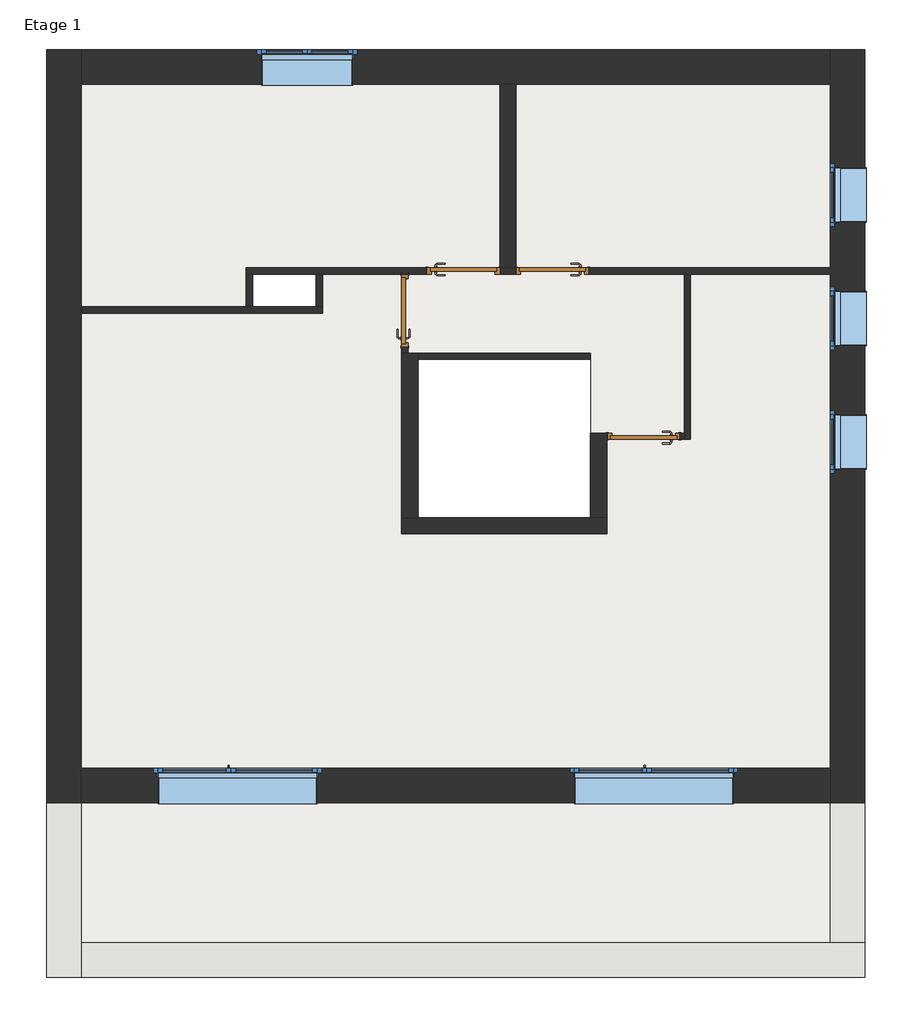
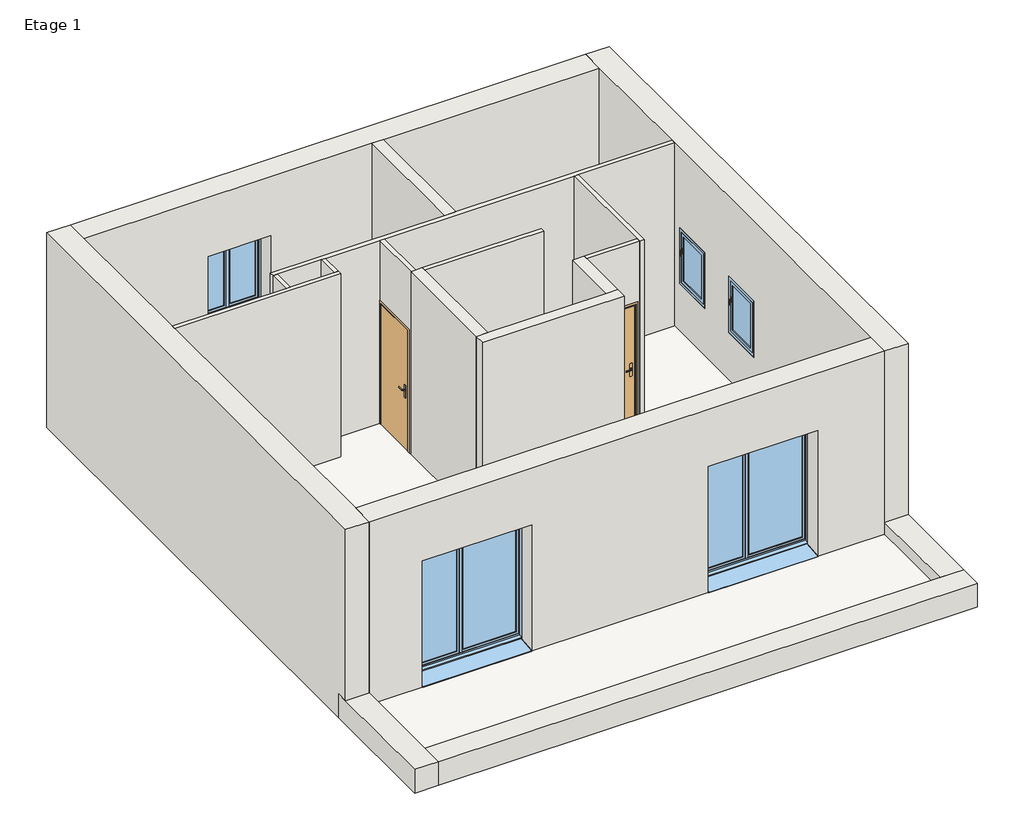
# One storey, incomplete: 19 walls, 6 windows, 4 doors, 1 slab.
"""IFC4 building model written with IfcOpenShell, lengths in millimetres."""

from ifc_helpers import new_model, si_unit, frame, origin, place, context, project, spatial, polyline, outline, extrude, faceted_brep, transform, mapped, element, save
from components import int_simple_pp_0_73m_x_2_04m_0234ae46, int_simple_pp_0_73m_x_2_04m_d65dadfb, window_1_vantail_droit_0_60m_x_0_90m_8d029caf, window_1_30m_x_1_00m_32213f53, window_1_75m_x_2_10m_70a65003

model = new_model("IFC4")

# Units and contexts
model_context = context("Model", 3, world=origin())
ifc_project = project(units=[si_unit("LENGTHUNIT", "METRE", prefix="MILLI")], contexts=[model_context])

# Site, building, storey
site = spatial("IfcSite", under=ifc_project)
building = spatial("IfcBuilding", under=site)
storey = spatial("IfcBuildingStorey", under=building, Name="Etage 1", Elevation=2600.0)

# Doors
placement = place(None, origin())
int_simple_pp_0_73m_x_2_04m_shape = int_simple_pp_0_73m_x_2_04m_0234ae46(model_context)
element("IfcDoor", 1, ObjectType="Int. Simple : PP (0.73m x 2.04m)", at=placement, inside=storey, context=model_context, shape_type="MappedRepresentation", body=[
    mapped(int_simple_pp_0_73m_x_2_04m_shape, transform((3239.2517592, 5219.1422201, 2600.0), x_axis=(-1.0, 0.0, 0.0), y_axis=(0.0, -1.0, 0.0), z_axis=(0.0, 0.0, 1.0))),
])
int_simple_pp_0_73m_x_2_04m_2_shape = int_simple_pp_0_73m_x_2_04m_d65dadfb(model_context)
element("IfcDoor", 2, ObjectType="Int. Simple : PP (0.73m x 2.04m)", at=placement, inside=storey, context=model_context, shape_type="MappedRepresentation", body=[
    mapped(int_simple_pp_0_73m_x_2_04m_2_shape, transform((2329.2517592, 5219.1422201, 2600.0), x_axis=(1.0, 0.0, 0.0), y_axis=(0.0, 1.0, 0.0), z_axis=(0.0, 0.0, 1.0))),
])
element("IfcDoor", 3, ObjectType="Int. Simple : PP (0.73m x 2.04m)", at=placement, inside=storey, context=model_context, shape_type="MappedRepresentation", body=[
    mapped(int_simple_pp_0_73m_x_2_04m_2_shape, transform((1649.2517592, 4815.4892751, 2600.0), x_axis=(0.0, 1.0, 0.0), y_axis=(-1.0, 0.0, 0.0), z_axis=(0.0, 0.0, 1.0))),
])
element("IfcDoor", 4, ObjectType="Int. Simple : PP (0.73m x 2.04m)", at=placement, inside=storey, context=model_context, shape_type="MappedRepresentation", body=[
    mapped(int_simple_pp_0_73m_x_2_04m_2_shape, transform((4243.2121709, 3399.1422201, 2600.0), x_axis=(-1.0, 0.0, 0.0), y_axis=(0.0, -1.0, 0.0), z_axis=(0.0, 0.0, 1.0))),
])

# Slab
element("IfcSlab", 5, ObjectType="Alliance soleil Sol Etage", at=placement, inside=storey, context=model_context, shape_type="SweptSolid", body=[
    extrude(outline(polyline([(-1915.7482408, -2175.8577799), (-1915.7482408, 7464.1422201), (6334.2517592, 7464.1422201), (6334.2517592, -2175.8577799), (-1915.7482408, -2175.8577799)]), holes=[polyline([(1794.2517592, 2504.1422201), (3694.2517592, 2504.1422201), (3694.2517592, 4244.1422201), (1794.2517592, 4244.1422201), (1794.2517592, 2504.1422201)]), polyline([(-25.7482408, 5184.1422201), (-25.7482408, 4824.1422201), (674.2517592, 4824.1422201), (674.2517592, 5184.1422201), (-25.7482408, 5184.1422201)])]), frame((0.0, 0.0, 2400.0), z_axis=(0.0, 0.0, 1.0), x_axis=(1.0, 0.0, 0.0)), (0.0, 0.0, 1.0), 200.0),
])

# Walls
element("IfcWall", 6, ObjectType="Alliance soleil Mur extérieur", at=placement, inside=storey, context=model_context, shape_type="Brep", body=[
    faceted_brep([(6714.2517592, -445.8577799, 2400.0), (6714.2517592, 7654.1422201, 2400.0), (6714.2517592, 7654.1422201, 5700.0), (6714.2517592, -635.8577799, 5700.0), (6714.2517592, -635.8577799, 2800.0), (6714.2517592, -635.8577799, 2600.0), (6714.2517592, -445.8577799, 2600.0), (6714.2517592, 6354.1422201, 4300.0), (6714.2517592, 6354.1422201, 3353.4687294), (6714.2517592, 5754.1422201, 3353.4687294), (6714.2517592, 5754.1422201, 4300.0), (6714.2517592, 4994.1422201, 4300.0), (6714.2517592, 4994.1422201, 3353.4687294), (6714.2517592, 4394.1422201, 3353.4687294), (6714.2517592, 4394.1422201, 4300.0), (6714.2517592, 3634.1422201, 4300.0), (6714.2517592, 3634.1422201, 3353.4687294), (6714.2517592, 3034.1422201, 3353.4687294), (6714.2517592, 3034.1422201, 4300.0), (6334.2517592, -445.8577799, 2400.0), (6334.2517592, -445.8577799, 2600.0), (6334.2517592, -635.8577799, 2600.0), (6334.2517592, -635.8577799, 2800.0), (6334.2517592, -635.8577799, 5700.0), (6334.2517592, -255.8577799, 5700.0), (6334.2517592, 5184.1422201, 5700.0), (6334.2517592, 5254.1422201, 5700.0), (6334.2517592, 7274.1422201, 5700.0), (6334.2517592, 7654.1422201, 5700.0), (6334.2517592, 7654.1422201, 2400.0), (6334.2517592, 7274.1422201, 2400.0), (6334.2517592, 5704.1422201, 3400.0), (6334.2517592, 6404.1422201, 3400.0), (6334.2517592, 6404.1422201, 4350.0), (6334.2517592, 5704.1422201, 4350.0), (6334.2517592, 4344.1422201, 3400.0), (6334.2517592, 5044.1422201, 3400.0), (6334.2517592, 5044.1422201, 4350.0), (6334.2517592, 4344.1422201, 4350.0), (6334.2517592, 2984.1422201, 3400.0), (6334.2517592, 3684.1422201, 3400.0), (6334.2517592, 3684.1422201, 4350.0), (6334.2517592, 2984.1422201, 4350.0), (6414.2517592, 6354.1422201, 3400.0), (6414.2517592, 6354.1422201, 3385.0), (6434.2517592, 6354.1422201, 4300.0), (6434.2517592, 6354.1422201, 3400.0), (6414.2517592, 5754.1422201, 3385.0), (6414.2517592, 5754.1422201, 3400.0), (6434.2517592, 5754.1422201, 3400.0), (6434.2517592, 5754.1422201, 4300.0), (6434.2517592, 6364.1422201, 3400.0), (6384.2517592, 6364.1422201, 3400.0), (6384.2517592, 6404.1422201, 3400.0), (6384.2517592, 5704.1422201, 3400.0), (6384.2517592, 5744.1422201, 3400.0), (6434.2517592, 5744.1422201, 3400.0), (6384.2517592, 6404.1422201, 4350.0), (6384.2517592, 6364.1422201, 4310.0), (6384.2517592, 5744.1422201, 4310.0), (6384.2517592, 5704.1422201, 4350.0), (6434.2517592, 6364.1422201, 4310.0), (6434.2517592, 5744.1422201, 4310.0), (6414.2517592, 4994.1422201, 3400.0), (6414.2517592, 4994.1422201, 3385.0), (6434.2517592, 4994.1422201, 4300.0), (6434.2517592, 4994.1422201, 3400.0), (6414.2517592, 4394.1422201, 3385.0), (6414.2517592, 4394.1422201, 3400.0), (6434.2517592, 4394.1422201, 3400.0), (6434.2517592, 4394.1422201, 4300.0), (6434.2517592, 5004.1422201, 3400.0), (6384.2517592, 5004.1422201, 3400.0), (6384.2517592, 5044.1422201, 3400.0), (6384.2517592, 4344.1422201, 3400.0), (6384.2517592, 4384.1422201, 3400.0), (6434.2517592, 4384.1422201, 3400.0), (6384.2517592, 5044.1422201, 4350.0), (6384.2517592, 5004.1422201, 4310.0), (6384.2517592, 4384.1422201, 4310.0), (6384.2517592, 4344.1422201, 4350.0), (6434.2517592, 5004.1422201, 4310.0), (6434.2517592, 4384.1422201, 4310.0), (6414.2517592, 3634.1422201, 3400.0), (6414.2517592, 3634.1422201, 3385.0), (6434.2517592, 3634.1422201, 4300.0), (6434.2517592, 3634.1422201, 3400.0), (6414.2517592, 3034.1422201, 3385.0), (6414.2517592, 3034.1422201, 3400.0), (6434.2517592, 3034.1422201, 3400.0), (6434.2517592, 3034.1422201, 4300.0), (6434.2517592, 3644.1422201, 3400.0), (6384.2517592, 3644.1422201, 3400.0), (6384.2517592, 3684.1422201, 3400.0), (6384.2517592, 2984.1422201, 3400.0), (6384.2517592, 3024.1422201, 3400.0), (6434.2517592, 3024.1422201, 3400.0), (6384.2517592, 3684.1422201, 4350.0), (6384.2517592, 3644.1422201, 4310.0), (6384.2517592, 3024.1422201, 4310.0), (6384.2517592, 2984.1422201, 4350.0), (6434.2517592, 3644.1422201, 4310.0), (6434.2517592, 3024.1422201, 4310.0)], [[[0, 1, 2, 3, 4, 5, 6], [7, 8, 9, 10], [11, 12, 13, 14], [15, 16, 17, 18]], [[19, 20, 21, 22, 23, 24, 25, 26, 27, 28, 29, 30], [31, 32, 33, 34], [35, 36, 37, 38], [39, 40, 41, 42]], [[1, 0, 19, 30, 29]], [[3, 2, 28, 27, 26, 25, 24, 23]], [[2, 1, 29, 28]], [[0, 6, 20, 19]], [[5, 21, 20, 6]], [[43, 44, 8, 7, 45, 46]], [[47, 48, 49, 50, 10, 9]], [[44, 47, 9, 8]], [[44, 43, 48, 47]], [[7, 10, 50, 45]], [[48, 43, 46, 51, 52, 53, 32, 31, 54, 55, 56, 49]], [[32, 53, 57, 33]], [[53, 52, 58, 59, 55, 54, 60, 57]], [[52, 51, 61, 58]], [[51, 46, 45, 50, 49, 56, 62, 61]], [[33, 57, 60, 34]], [[59, 58, 61, 62]], [[60, 54, 31, 34]], [[55, 59, 62, 56]], [[63, 64, 12, 11, 65, 66]], [[67, 68, 69, 70, 14, 13]], [[64, 67, 13, 12]], [[64, 63, 68, 67]], [[11, 14, 70, 65]], [[68, 63, 66, 71, 72, 73, 36, 35, 74, 75, 76, 69]], [[36, 73, 77, 37]], [[73, 72, 78, 79, 75, 74, 80, 77]], [[72, 71, 81, 78]], [[71, 66, 65, 70, 69, 76, 82, 81]], [[37, 77, 80, 38]], [[79, 78, 81, 82]], [[80, 74, 35, 38]], [[75, 79, 82, 76]], [[83, 84, 16, 15, 85, 86]], [[87, 88, 89, 90, 18, 17]], [[84, 87, 17, 16]], [[84, 83, 88, 87]], [[15, 18, 90, 85]], [[88, 83, 86, 91, 92, 93, 40, 39, 94, 95, 96, 89]], [[40, 93, 97, 41]], [[93, 92, 98, 99, 95, 94, 100, 97]], [[92, 91, 101, 98]], [[91, 86, 85, 90, 89, 96, 102, 101]], [[41, 97, 100, 42]], [[99, 98, 101, 102]], [[100, 94, 39, 42]], [[95, 99, 102, 96]], [[3, 23, 22, 21, 5, 4]]]),
])
element("IfcWall", 7, ObjectType="Alliance soleil Mur extérieur", at=placement, inside=storey, context=model_context, shape_type="Brep", body=[
    faceted_brep([(6334.2517592, 7654.1422201, 2400.0), (-1915.7482408, 7654.1422201, 2400.0), (-1915.7482408, 7654.1422201, 5700.0), (6334.2517592, 7654.1422201, 5700.0), (24.2517592, 7654.1422201, 3400.0), (1124.2517592, 7654.1422201, 3400.0), (1124.2517592, 7654.1422201, 4750.0), (24.2517592, 7654.1422201, 4750.0), (6334.2517592, 7274.1422201, 2400.0), (6334.2517592, 7274.1422201, 5700.0), (2874.2517592, 7274.1422201, 5700.0), (2694.2517592, 7274.1422201, 5700.0), (-1915.7482408, 7274.1422201, 5700.0), (-1915.7482408, 7274.1422201, 2400.0), (74.2517592, 7274.1422201, 3353.4687294), (74.2517592, 7274.1422201, 4700.0), (1074.2517592, 7274.1422201, 4700.0), (1074.2517592, 7274.1422201, 3353.4687294), (74.2517592, 7574.1422201, 3400.0), (74.2517592, 7554.1422201, 3400.0), (74.2517592, 7554.1422201, 4700.0), (74.2517592, 7574.1422201, 3385.0), (1074.2517592, 7574.1422201, 3385.0), (1074.2517592, 7554.1422201, 4700.0), (1074.2517592, 7554.1422201, 3400.0), (1074.2517592, 7574.1422201, 3400.0), (1084.2517592, 7554.1422201, 3400.0), (1084.2517592, 7604.1422201, 3400.0), (1124.2517592, 7604.1422201, 3400.0), (24.2517592, 7604.1422201, 3400.0), (64.2517592, 7604.1422201, 3400.0), (64.2517592, 7554.1422201, 3400.0), (24.2517592, 7604.1422201, 4750.0), (1124.2517592, 7604.1422201, 4750.0), (1084.2517592, 7604.1422201, 4710.0), (64.2517592, 7604.1422201, 4710.0), (64.2517592, 7554.1422201, 4710.0), (1084.2517592, 7554.1422201, 4710.0)], [[[0, 1, 2, 3], [4, 5, 6, 7]], [[8, 9, 10, 11, 12, 13], [14, 15, 16, 17]], [[1, 0, 8, 13]], [[3, 2, 12, 11, 10, 9]], [[0, 3, 9, 8]], [[2, 1, 13, 12]], [[18, 19, 20, 15, 14, 21]], [[22, 17, 16, 23, 24, 25]], [[21, 14, 17, 22]], [[21, 22, 25, 18]], [[15, 20, 23, 16]], [[25, 24, 26, 27, 28, 5, 4, 29, 30, 31, 19, 18]], [[4, 7, 32, 29]], [[29, 32, 33, 28, 27, 34, 35, 30]], [[30, 35, 36, 31]], [[31, 36, 37, 26, 24, 23, 20, 19]], [[7, 6, 33, 32]], [[34, 37, 36, 35]], [[33, 6, 5, 28]], [[27, 26, 37, 34]]]),
])
element("IfcWall", 8, ObjectType="Alliance soleil Mur refend", at=placement, inside=storey, context=model_context, shape_type="Brep", body=[
    faceted_brep([(3874.2517592, 2504.1422201, 2600.0), (3694.2517592, 2504.1422201, 2600.0), (1794.2517592, 2504.1422201, 2600.0), (1614.2517592, 2504.1422201, 2600.0), (1614.2517592, 2504.1422201, 5700.0), (1794.2517592, 2504.1422201, 5700.0), (3694.2517592, 2504.1422201, 5700.0), (3874.2517592, 2504.1422201, 5700.0), (3874.2517592, 2324.1422201, 2600.0), (3874.2517592, 2324.1422201, 5700.0), (1614.2517592, 2324.1422201, 5700.0), (1614.2517592, 2324.1422201, 2600.0)], [[[0, 1, 2, 3, 4, 5, 6, 7]], [[8, 9, 10, 11]], [[3, 2, 1, 0, 8, 11]], [[7, 6, 5, 4, 10, 9]], [[4, 3, 11, 10]], [[0, 7, 9, 8]]]),
])
element("IfcWall", 9, ObjectType="Alliance soleil Mur refend", at=placement, inside=storey, context=model_context, shape_type="Brep", body=[
    faceted_brep([(1794.2517592, 2504.1422201, 2600.0), (1794.2517592, 4244.1422201, 2600.0), (1794.2517592, 4314.1422201, 2600.0), (1794.2517592, 4314.1422201, 5700.0), (1794.2517592, 4244.1422201, 5700.0), (1794.2517592, 2504.1422201, 5700.0), (1614.2517592, 2504.1422201, 2600.0), (1614.2517592, 2504.1422201, 5700.0), (1614.2517592, 4314.1422201, 5700.0), (1614.2517592, 4314.1422201, 2600.0), (1684.2517592, 4314.1422201, 2600.0), (1684.2517592, 4314.1422201, 5700.0)], [[[0, 1, 2, 3, 4, 5]], [[6, 7, 8, 9]], [[2, 1, 0, 6, 9, 10]], [[5, 4, 3, 11, 8, 7]], [[0, 5, 7, 6]], [[3, 2, 10, 9, 8, 11]]]),
])
element("IfcWall", 10, ObjectType="Alliance soleil Mur refend", at=placement, inside=storey, context=model_context, shape_type="Brep", body=[
    faceted_brep([(3874.2517592, 2504.1422201, 2600.0), (3874.2517592, 3364.1422201, 2600.0), (3874.2517592, 3434.1422201, 2600.0), (3874.2517592, 3434.1422201, 5700.0), (3874.2517592, 3364.1422201, 5700.0), (3874.2517592, 2504.1422201, 5700.0), (3694.2517592, 2504.1422201, 2600.0), (3694.2517592, 2504.1422201, 5700.0), (3694.2517592, 3434.1422201, 5700.0), (3694.2517592, 3434.1422201, 2600.0)], [[[0, 1, 2, 3, 4, 5]], [[6, 7, 8, 9]], [[2, 1, 0, 6, 9]], [[5, 4, 3, 8, 7]], [[0, 5, 7, 6]], [[3, 2, 9, 8]]]),
])
element("IfcWall", 11, ObjectType="Alliance soleil Cloison intérieure", at=placement, inside=storey, context=model_context, shape_type="Brep", body=[
    faceted_brep([(-1915.7482408, 4754.1422201, 2600.0), (744.2517592, 4754.1422201, 2600.0), (744.2517592, 4754.1422201, 5700.0), (-1915.7482408, 4754.1422201, 5700.0), (-1915.7482408, 4824.1422201, 2600.0), (-1915.7482408, 4824.1422201, 5700.0), (-95.7482408, 4824.1422201, 5700.0), (-25.7482408, 4824.1422201, 5700.0), (674.2517592, 4824.1422201, 5700.0), (744.2517592, 4824.1422201, 5700.0), (744.2517592, 4824.1422201, 2600.0), (674.2517592, 4824.1422201, 2600.0), (-25.7482408, 4824.1422201, 2600.0), (-95.7482408, 4824.1422201, 2600.0)], [[[0, 1, 2, 3]], [[4, 5, 6, 7, 8, 9, 10, 11, 12, 13]], [[1, 0, 4, 13, 12, 11, 10]], [[3, 2, 9, 8, 7, 6, 5]], [[0, 3, 5, 4]], [[2, 1, 10, 9]]]),
])
element("IfcWall", 12, ObjectType="Alliance soleil Cloison intérieure", at=placement, inside=storey, context=model_context, shape_type="Brep", body=[
    faceted_brep([(-95.7482408, 5254.1422201, 5700.0), (2694.2517592, 5254.1422201, 5700.0), (2874.2517592, 5254.1422201, 5700.0), (6334.2517592, 5254.1422201, 5700.0), (6334.2517592, 5254.1422201, 2600.0), (3674.2517592, 5254.1422201, 2600.0), (3674.2517592, 5254.1422201, 4675.0), (2874.2517592, 5254.1422201, 4675.0), (2874.2517592, 5254.1422201, 2600.0), (2694.2517592, 5254.1422201, 2600.0), (2694.2517592, 5254.1422201, 4675.0), (1894.2517592, 5254.1422201, 4675.0), (1894.2517592, 5254.1422201, 2600.0), (-95.7482408, 5254.1422201, 2600.0), (6334.2517592, 5184.1422201, 5700.0), (4794.2517592, 5184.1422201, 5700.0), (4724.2517592, 5184.1422201, 5700.0), (1684.2517592, 5184.1422201, 5700.0), (1614.2517592, 5184.1422201, 5700.0), (744.2517592, 5184.1422201, 5700.0), (674.2517592, 5184.1422201, 5700.0), (-25.7482408, 5184.1422201, 5700.0), (-95.7482408, 5184.1422201, 5700.0), (-95.7482408, 5184.1422201, 2600.0), (-25.7482408, 5184.1422201, 2600.0), (674.2517592, 5184.1422201, 2600.0), (744.2517592, 5184.1422201, 2600.0), (1614.2517592, 5184.1422201, 2600.0), (1684.2517592, 5184.1422201, 2600.0), (1894.2517592, 5184.1422201, 2600.0), (1894.2517592, 5184.1422201, 4675.0), (2694.2517592, 5184.1422201, 4675.0), (2694.2517592, 5184.1422201, 2600.0), (2874.2517592, 5184.1422201, 2600.0), (2874.2517592, 5184.1422201, 4675.0), (3674.2517592, 5184.1422201, 4675.0), (3674.2517592, 5184.1422201, 2600.0), (4724.2517592, 5184.1422201, 2600.0), (4794.2517592, 5184.1422201, 2600.0), (6334.2517592, 5184.1422201, 2600.0)], [[[0, 1, 2, 3, 4, 5, 6, 7, 8, 9, 10, 11, 12, 13]], [[14, 15, 16, 17, 18, 19, 20, 21, 22, 23, 24, 25, 26, 27, 28, 29, 30, 31, 32, 33, 34, 35, 36, 37, 38, 39]], [[23, 13, 12, 29, 28, 27, 26, 25, 24]], [[8, 33, 32, 9]], [[4, 39, 38, 37, 36, 5]], [[3, 2, 1, 0, 22, 21, 20, 19, 18, 17, 16, 15, 14]], [[4, 3, 14, 39]], [[0, 13, 23, 22]], [[7, 34, 33, 8]], [[34, 7, 6, 35]], [[35, 6, 5, 36]], [[31, 10, 9, 32]], [[10, 31, 30, 11]], [[11, 30, 29, 12]]]),
])
element("IfcWall", 13, ObjectType="Alliance soleil Mur refend", at=placement, inside=storey, context=model_context, shape_type="Brep", body=[
    faceted_brep([(2694.2517592, 7274.1422201, 2600.0), (2694.2517592, 5254.1422201, 2600.0), (2694.2517592, 5254.1422201, 4675.0), (2694.2517592, 5254.1422201, 5700.0), (2694.2517592, 7274.1422201, 5700.0), (2874.2517592, 7274.1422201, 2600.0), (2874.2517592, 7274.1422201, 5700.0), (2874.2517592, 5254.1422201, 5700.0), (2874.2517592, 5254.1422201, 4675.0), (2874.2517592, 5254.1422201, 2600.0)], [[[0, 1, 2, 3, 4]], [[5, 6, 7, 8, 9]], [[1, 0, 5, 9]], [[4, 3, 7, 6]], [[0, 4, 6, 5]], [[3, 2, 1, 9, 8, 7]]]),
])
element("IfcWall", 14, ObjectType="Alliance soleil Cloison intérieure", at=placement, inside=storey, context=model_context, shape_type="SweptSolid", body=[
    extrude(outline(polyline([(744.2517592, 5184.1422201), (744.2517592, 4824.1422201), (674.2517592, 4824.1422201), (674.2517592, 5184.1422201), (744.2517592, 5184.1422201)])), frame((0.0, 0.0, 2600.0), z_axis=(0.0, 0.0, 1.0), x_axis=(1.0, 0.0, 0.0)), (0.0, 0.0, 1.0), 3100.0),
])
element("IfcWall", 15, ObjectType="Alliance soleil Cloison intérieure", at=placement, inside=storey, context=model_context, shape_type="SweptSolid", body=[
    extrude(outline(polyline([(-95.7482408, 4824.1422201), (-95.7482408, 5184.1422201), (-25.7482408, 5184.1422201), (-25.7482408, 4824.1422201), (-95.7482408, 4824.1422201)])), frame((0.0, 0.0, 2600.0), z_axis=(0.0, 0.0, 1.0), x_axis=(1.0, 0.0, 0.0)), (0.0, 0.0, 1.0), 3100.0),
])
element("IfcWall", 16, ObjectType="Alliance soleil Cloison intérieure", at=placement, inside=storey, context=model_context, shape_type="Brep", body=[
    faceted_brep([(4724.2517592, 5184.1422201, 2600.0), (4724.2517592, 3434.1422201, 2600.0), (4724.2517592, 3364.1422201, 2600.0), (4724.2517592, 3364.1422201, 5700.0), (4724.2517592, 3434.1422201, 5700.0), (4724.2517592, 5184.1422201, 5700.0), (4794.2517592, 5184.1422201, 2600.0), (4794.2517592, 5184.1422201, 5700.0), (4794.2517592, 3364.1422201, 5700.0), (4794.2517592, 3364.1422201, 2600.0)], [[[0, 1, 2, 3, 4, 5]], [[6, 7, 8, 9]], [[2, 1, 0, 6, 9]], [[5, 4, 3, 8, 7]], [[0, 5, 7, 6]], [[3, 2, 9, 8]]]),
])
element("IfcWall", 17, ObjectType="Alliance soleil Cloison intérieure", at=placement, inside=storey, context=model_context, shape_type="SweptSolid", body=[
    extrude(outline(polyline([(5700.0, 4724.2517592), (5700.0, 3874.2517592), (2600.0, 3874.2517592), (2600.0, 3878.2121709), (4675.0, 3878.2121709), (4675.0, 4678.2121709), (2600.0, 4678.2121709), (2600.0, 4724.2517592), (5700.0, 4724.2517592)])), frame((0.0, 3364.1422201, 0.0), z_axis=(0.0, 1.0, 0.0), x_axis=(0.0, 0.0, 1.0)), (0.0, 0.0, 1.0), 70.0),
])
element("IfcWall", 18, ObjectType="Alliance soleil Cloison intérieure", at=placement, inside=storey, context=model_context, shape_type="SweptSolid", body=[
    extrude(outline(polyline([(1794.2517592, 4314.1422201), (3694.2517592, 4314.1422201), (3694.2517592, 4244.1422201), (1794.2517592, 4244.1422201), (1794.2517592, 4314.1422201)])), frame((0.0, 0.0, 2600.0), z_axis=(0.0, 0.0, 1.0), x_axis=(1.0, 0.0, 0.0)), (0.0, 0.0, 1.0), 3100.0),
])
element("IfcWall", 19, ObjectType="Alliance soleil Cloison intérieure", at=placement, inside=storey, context=model_context, shape_type="SweptSolid", body=[
    extrude(outline(polyline([(4314.1422201, 5700.0), (5184.1422201, 5700.0), (5184.1422201, 2600.0), (5180.4892751, 2600.0), (5180.4892751, 4675.0), (4380.4892751, 4675.0), (4380.4892751, 2600.0), (4314.1422201, 2600.0), (4314.1422201, 5700.0)])), frame((1614.2517592, 0.0, 0.0), z_axis=(1.0, 0.0, 0.0), x_axis=(0.0, 1.0, 0.0)), (0.0, 0.0, 1.0), 70.0),
])
element("IfcWall", 20, ObjectType="Alliance soleil Mur extérieur", at=placement, inside=storey, context=model_context, shape_type="Brep", body=[
    faceted_brep([(-2295.7482408, -445.8577799, 2800.0), (-2295.7482408, -445.8577799, 2400.0), (-2295.7482408, -2555.8577799, 2400.0), (-2295.7482408, -2555.8577799, 2800.0), (-2295.7482408, -635.8577799, 2800.0), (-1915.7482408, -445.8577799, 2400.0), (-1915.7482408, -445.8577799, 2800.0), (-1915.7482408, -635.8577799, 2800.0), (-1915.7482408, -2175.8577799, 2800.0), (-1915.7482408, -2555.8577799, 2800.0), (-1915.7482408, -2555.8577799, 2400.0), (-1915.7482408, -2175.8577799, 2400.0)], [[[0, 1, 2, 3, 4]], [[5, 6, 7, 8, 9, 10, 11]], [[2, 1, 5, 11, 10]], [[0, 4, 3, 9, 8, 7, 6]], [[3, 2, 10, 9]], [[0, 6, 5, 1]]]),
])
element("IfcWall", 21, ObjectType="Alliance soleil Mur extérieur", at=placement, inside=storey, context=model_context, shape_type="Brep", body=[
    faceted_brep([(-1915.7482408, -2555.8577799, 2400.0), (6714.2517592, -2555.8577799, 2400.0), (6714.2517592, -2555.8577799, 2800.0), (-1915.7482408, -2555.8577799, 2800.0), (-1915.7482408, -2175.8577799, 2400.0), (-1915.7482408, -2175.8577799, 2800.0), (6334.2517592, -2175.8577799, 2800.0), (6714.2517592, -2175.8577799, 2800.0), (6714.2517592, -2175.8577799, 2400.0), (6334.2517592, -2175.8577799, 2400.0)], [[[0, 1, 2, 3]], [[4, 5, 6, 7, 8, 9]], [[1, 0, 4, 9, 8]], [[3, 2, 7, 6, 5]], [[0, 3, 5, 4]], [[2, 1, 8, 7]]]),
])
element("IfcWall", 22, ObjectType="Alliance soleil Mur extérieur", at=placement, inside=storey, context=model_context, shape_type="SweptSolid", body=[
    extrude(outline(polyline([(-2175.8577799, 2400.0), (-2175.8577799, 2800.0), (-635.8577799, 2800.0), (-635.8577799, 2600.0), (-445.8577799, 2600.0), (-445.8577799, 2400.0), (-2175.8577799, 2400.0)])), frame((6334.2517592, 0.0, 0.0), z_axis=(1.0, 0.0, 0.0), x_axis=(0.0, 1.0, 0.0)), (0.0, 0.0, 1.0), 380.0),
])
element("IfcWall", 23, ObjectType="Alliance soleil Mur extérieur", at=placement, inside=storey, context=model_context, shape_type="Brep", body=[
    faceted_brep([(-2295.7482408, 7654.1422201, 2400.0), (-2295.7482408, -445.8577799, 2400.0), (-2295.7482408, -445.8577799, 2800.0), (-2295.7482408, -635.8577799, 2800.0), (-2295.7482408, -635.8577799, 5700.0), (-2295.7482408, 7654.1422201, 5700.0), (-1915.7482408, 7654.1422201, 2400.0), (-1915.7482408, 7654.1422201, 5700.0), (-1915.7482408, 7274.1422201, 5700.0), (-1915.7482408, 4824.1422201, 5700.0), (-1915.7482408, 4754.1422201, 5700.0), (-1915.7482408, -255.8577799, 5700.0), (-1915.7482408, -635.8577799, 5700.0), (-1915.7482408, -635.8577799, 2800.0), (-1915.7482408, -445.8577799, 2800.0), (-1915.7482408, -445.8577799, 2400.0), (-1915.7482408, 7274.1422201, 2400.0)], [[[0, 1, 2, 3, 4, 5]], [[6, 7, 8, 9, 10, 11, 12, 13, 14, 15, 16]], [[1, 0, 6, 16, 15]], [[5, 4, 12, 11, 10, 9, 8, 7]], [[0, 5, 7, 6]], [[1, 15, 14, 2]], [[13, 3, 2, 14]], [[4, 3, 13, 12]]]),
])
element("IfcWall", 24, ObjectType="Alliance soleil Mur extérieur", at=placement, inside=storey, context=model_context, shape_type="Brep", body=[
    faceted_brep([(-1915.7482408, -635.8577799, 5700.0), (-1915.7482408, -635.8577799, 2800.0), (-1915.7482408, -635.8577799, 2600.0), (6334.2517592, -635.8577799, 2600.0), (6334.2517592, -635.8577799, 5700.0), (684.2517592, -635.8577799, 4735.0), (684.2517592, -635.8577799, 2603.4687294), (-1065.7482408, -635.8577799, 2603.4687294), (-1065.7482408, -635.8577799, 4735.0), (5264.2517592, -635.8577799, 4735.0), (5264.2517592, -635.8577799, 2603.4687294), (3514.2517592, -635.8577799, 2603.4687294), (3514.2517592, -635.8577799, 4735.0), (-1915.7482408, -255.8577799, 2600.0), (-1915.7482408, -255.8577799, 5700.0), (6334.2517592, -255.8577799, 5700.0), (6334.2517592, -255.8577799, 2600.0), (-1115.7482408, -255.8577799, 2635.0), (734.2517592, -255.8577799, 2635.0), (734.2517592, -255.8577799, 4785.0), (-1115.7482408, -255.8577799, 4785.0), (3464.2517592, -255.8577799, 2635.0), (5314.2517592, -255.8577799, 2635.0), (5314.2517592, -255.8577799, 4785.0), (3464.2517592, -255.8577799, 4785.0), (-1915.7482408, -445.8577799, 2600.0), (684.2517592, -335.8577799, 2635.0), (684.2517592, -355.8577799, 4735.0), (684.2517592, -355.8577799, 2635.0), (-1065.7482408, -335.8577799, 2635.0), (-1065.7482408, -355.8577799, 2635.0), (-1065.7482408, -355.8577799, 4735.0), (694.2517592, -355.8577799, 2635.0), (694.2517592, -305.8577799, 2635.0), (734.2517592, -305.8577799, 2635.0), (-1115.7482408, -305.8577799, 2635.0), (-1075.7482408, -305.8577799, 2635.0), (-1075.7482408, -355.8577799, 2635.0), (734.2517592, -305.8577799, 4785.0), (694.2517592, -305.8577799, 4745.0), (-1075.7482408, -305.8577799, 4745.0), (-1115.7482408, -305.8577799, 4785.0), (694.2517592, -355.8577799, 4745.0), (-1075.7482408, -355.8577799, 4745.0), (5264.2517592, -335.8577799, 2635.0), (5264.2517592, -355.8577799, 4735.0), (5264.2517592, -355.8577799, 2635.0), (3514.2517592, -335.8577799, 2635.0), (3514.2517592, -355.8577799, 2635.0), (3514.2517592, -355.8577799, 4735.0), (5274.2517592, -355.8577799, 2635.0), (5274.2517592, -305.8577799, 2635.0), (5314.2517592, -305.8577799, 2635.0), (3464.2517592, -305.8577799, 2635.0), (3504.2517592, -305.8577799, 2635.0), (3504.2517592, -355.8577799, 2635.0), (5314.2517592, -305.8577799, 4785.0), (5274.2517592, -305.8577799, 4745.0), (3504.2517592, -305.8577799, 4745.0), (3464.2517592, -305.8577799, 4785.0), (5274.2517592, -355.8577799, 4745.0), (3504.2517592, -355.8577799, 4745.0)], [[[0, 1, 2, 3, 4], [5, 6, 7, 8], [9, 10, 11, 12]], [[13, 14, 15, 16], [17, 18, 19, 20], [21, 22, 23, 24]], [[3, 2, 25, 13, 16]], [[0, 4, 15, 14]], [[3, 16, 15, 4]], [[26, 6, 5, 27, 28]], [[7, 29, 30, 31, 8]], [[26, 29, 7, 6]], [[5, 8, 31, 27]], [[29, 26, 28, 32, 33, 34, 18, 17, 35, 36, 37, 30]], [[18, 34, 38, 19]], [[34, 33, 39, 40, 36, 35, 41, 38]], [[33, 32, 42, 39]], [[32, 28, 27, 31, 30, 37, 43, 42]], [[19, 38, 41, 20]], [[40, 39, 42, 43]], [[41, 35, 17, 20]], [[36, 40, 43, 37]], [[44, 10, 9, 45, 46]], [[11, 47, 48, 49, 12]], [[44, 47, 11, 10]], [[9, 12, 49, 45]], [[47, 44, 46, 50, 51, 52, 22, 21, 53, 54, 55, 48]], [[22, 52, 56, 23]], [[52, 51, 57, 58, 54, 53, 59, 56]], [[51, 50, 60, 57]], [[50, 46, 45, 49, 48, 55, 61, 60]], [[23, 56, 59, 24]], [[58, 57, 60, 61]], [[59, 53, 21, 24]], [[54, 58, 61, 55]], [[0, 14, 13, 25, 2, 1]]]),
])

# Windows
window_1_vantail_droit_0_60m_x_0_90m_shape = window_1_vantail_droit_0_60m_x_0_90m_8d029caf(model_context)
element("IfcWindow", 25, ObjectType="1 Vantail - Droit : 0.60m x 0.90m", at=placement, inside=storey, context=model_context, shape_type="MappedRepresentation", body=[
    mapped(window_1_vantail_droit_0_60m_x_0_90m_shape, transform((6524.2517592, 6054.1422201, 2600.0), x_axis=(0.0, -1.0, 0.0), y_axis=(1.0, 0.0, 0.0), z_axis=(0.0, 0.0, 1.0))),
])
element("IfcWindow", 26, ObjectType="1 Vantail - Droit : 0.60m x 0.90m", at=placement, inside=storey, context=model_context, shape_type="MappedRepresentation", body=[
    mapped(window_1_vantail_droit_0_60m_x_0_90m_shape, transform((6524.2517592, 4694.1422201, 2600.0), x_axis=(0.0, -1.0, 0.0), y_axis=(1.0, 0.0, 0.0), z_axis=(0.0, 0.0, 1.0))),
])
element("IfcWindow", 27, ObjectType="1 Vantail - Droit : 0.60m x 0.90m", at=placement, inside=storey, context=model_context, shape_type="MappedRepresentation", body=[
    mapped(window_1_vantail_droit_0_60m_x_0_90m_shape, transform((6524.2517592, 3334.1422201, 2600.0), x_axis=(0.0, -1.0, 0.0), y_axis=(1.0, 0.0, 0.0), z_axis=(0.0, 0.0, 1.0))),
])
window_1_30m_x_1_00m_shape = window_1_30m_x_1_00m_32213f53(model_context)
element("IfcWindow", 28, ObjectType="2 Vantaux - Droits : 1.30m x 1.00m", at=placement, inside=storey, context=model_context, shape_type="MappedRepresentation", body=[
    mapped(window_1_30m_x_1_00m_shape, transform((574.2517592, 7464.1422201, 2600.0), x_axis=(1.0, 0.0, 0.0), y_axis=(0.0, 1.0, 0.0), z_axis=(0.0, 0.0, 1.0))),
])
window_1_75m_x_2_10m_shape = window_1_75m_x_2_10m_70a65003(model_context)
element("IfcWindow", 29, ObjectType="285-porte-fenetre-linteau-droit-tierce-parametrique-80 : 1.75m x 2.10m", at=placement, inside=storey, context=model_context, shape_type="MappedRepresentation", body=[
    mapped(window_1_75m_x_2_10m_shape, transform((84.2517592, -445.8577799, 2600.0), x_axis=(-1.0, 0.0, 0.0), y_axis=(0.0, -1.0, 0.0), z_axis=(0.0, 0.0, 1.0))),
])
element("IfcWindow", 30, ObjectType="285-porte-fenetre-linteau-droit-tierce-parametrique-80 : 1.75m x 2.10m", at=placement, inside=storey, context=model_context, shape_type="MappedRepresentation", body=[
    mapped(window_1_75m_x_2_10m_shape, transform((4664.2517592, -445.8577799, 2600.0), x_axis=(-1.0, 0.0, 0.0), y_axis=(0.0, -1.0, 0.0), z_axis=(0.0, 0.0, 1.0))),
])

save(model, "model.ifc")
